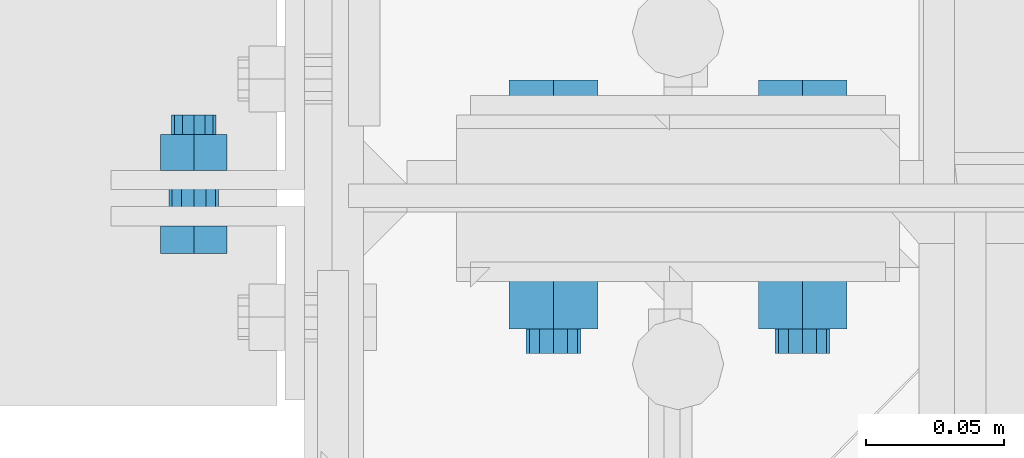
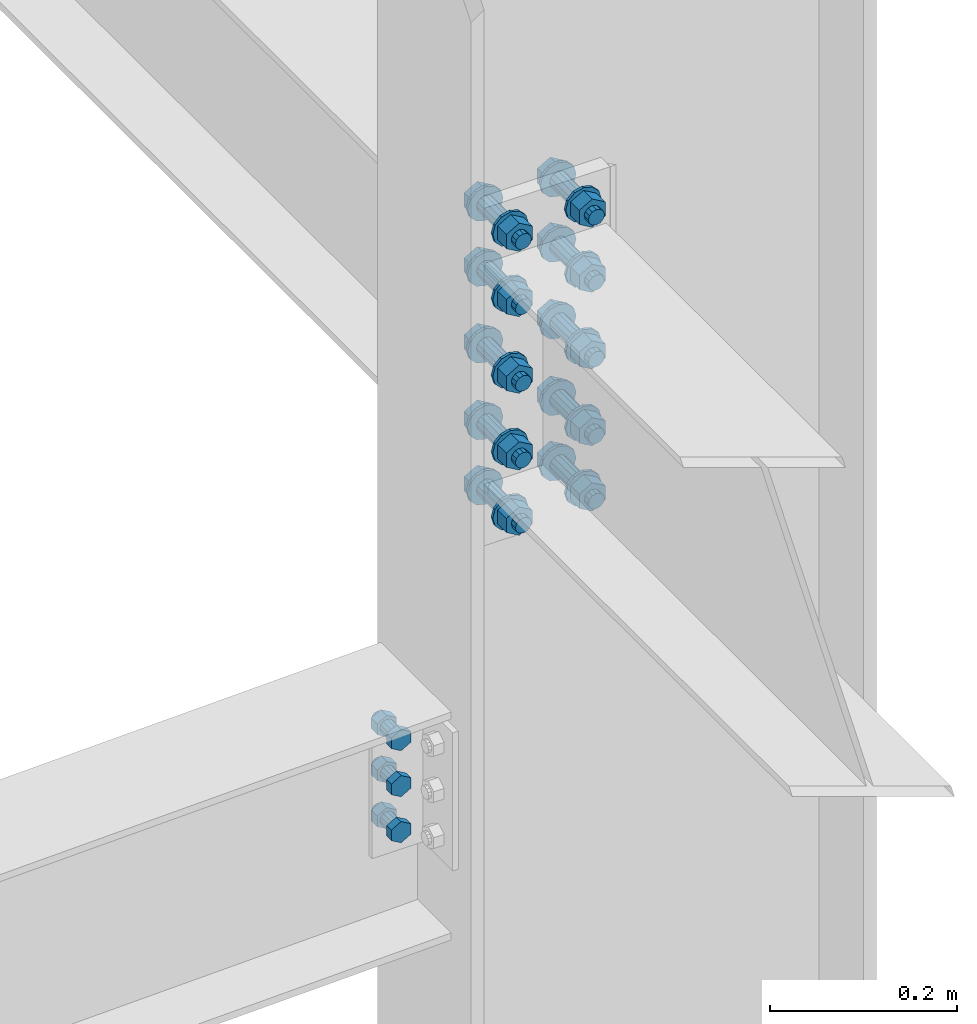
# One storey, part 202 of 3134: 2 mechanical fasteners, 2 elements without a shape of their own.
"""IFC2X3 building model written with IfcOpenShell, lengths in millimetres."""

from ifc_helpers import new_model, si_unit, frame, origin_with_axes, place, context, subcontext, project, spatial, faceted_brep, source, transform, mapped, material, type_object, element, aggregate, save


model = new_model("IFC2X3")

# Units and contexts
model_context = context("Model", 3, precision=1e-05, world=origin_with_axes())
body_context = subcontext(model_context, "Body", "Model", "MODEL_VIEW")
ifc_project = project(units=[si_unit("LENGTHUNIT", "METRE", prefix="MILLI"), si_unit("AREAUNIT", "SQUARE_METRE"), si_unit("VOLUMEUNIT", "CUBIC_METRE"), si_unit("MASSUNIT", "GRAM", prefix="KILO"), si_unit("TIMEUNIT", "SECOND"), si_unit("PLANEANGLEUNIT", "RADIAN"), si_unit("SOLIDANGLEUNIT", "STERADIAN"), si_unit("THERMODYNAMICTEMPERATUREUNIT", "DEGREE_CELSIUS"), si_unit("LUMINOUSINTENSITYUNIT", "LUMEN")], contexts=[model_context])

# Site, building, storey
site_placement = place(None, origin_with_axes())
site = spatial("IfcSite", under=ifc_project, at=site_placement, CompositionType="ELEMENT")
building_placement = place(site_placement, origin_with_axes())
building = spatial("IfcBuilding", under=site, at=building_placement, Name="Undefined", CompositionType="ELEMENT")
storey_placement = place(building_placement, origin_with_axes())
storey = spatial("IfcBuildingStorey", under=building, at=storey_placement, Name="Undefined", CompositionType="ELEMENT", Elevation=0.0)

# Assembly, mechanical fastener
assembly_1_placement = place(storey_placement, origin_with_axes())
assembly_1 = element("IfcElementAssembly", 1, at=assembly_1_placement, inside=storey, Name="300", AssemblyPlace="NOTDEFINED", PredefinedType="RIGID_FRAME")
ifc_material_1 = material(Name="HR10.9")
mechanical_fastener_type = type_object("IfcMechanicalFastenerType", Name="Bolt assembly")
shared_shape_1 = source(origin_with_axes(), body_context, "Body", "Brep", [
    faceted_brep([(18.475208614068, -18.3999996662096, 0.0), (9.23760430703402, -18.3999996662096, 16.0), (-9.23760430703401, -18.3999996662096, 16.0), (-18.475208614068, -18.3999996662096, 2.2625605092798e-15), (-9.23760430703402, -18.3999996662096, -16.0), (9.237604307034, -18.3999996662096, -16.0), (9.237604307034, -4.50000004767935, -16.0), (-9.23760430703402, -4.50000004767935, -16.0), (-18.475208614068, -4.50000004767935, 2.2625605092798e-15), (-9.23760430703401, -4.50000004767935, 16.0), (9.23760430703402, -4.50000004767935, 16.0), (18.475208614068, -4.50000004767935, 0.0), (10.0, -4.50000004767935, 0.0), (8.66025403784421, -4.50000004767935, 5.0000000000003), (4.9999999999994, -4.50000004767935, 8.66025403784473), (-1.03633598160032e-12, -4.50000004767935, 10.0), (-5.00000000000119, -4.50000004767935, 8.6602540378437), (-8.66025403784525, -4.50000004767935, 4.99999999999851), (-10.0, -4.50000004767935, -2.07267196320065e-12), (-8.66025403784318, -4.50000004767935, -5.00000000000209), (-4.99999999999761, -4.50000004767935, -8.66025403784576), (3.09790571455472e-12, -4.50000004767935, -10.0), (5.00000000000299, -4.50000004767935, -8.66025403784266), (8.66025403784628, -4.50000004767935, -4.99999999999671), (8.66025403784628, 80.4999999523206, -4.99999999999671), (5.00000000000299, 80.4999999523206, -8.66025403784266), (3.09790571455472e-12, 80.4999999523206, -10.0), (-4.99999999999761, 80.4999999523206, -8.66025403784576), (-8.66025403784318, 80.4999999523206, -5.00000000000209), (-10.0, 80.4999999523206, -2.07267196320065e-12), (-8.66025403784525, 80.4999999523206, 4.99999999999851), (-5.00000000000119, 80.4999999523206, 8.6602540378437), (-1.03633598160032e-12, 80.4999999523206, 10.0), (4.9999999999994, 80.4999999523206, 8.66025403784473), (8.66025403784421, 80.4999999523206, 5.0000000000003), (10.0, 80.4999999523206, 0.0), (22.0, -4.50000004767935, 0.0), (19.0525588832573, -4.50000004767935, 11.0000000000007), (10.9999999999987, -4.50000004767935, 19.0525588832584), (-2.27993915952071e-12, -4.50000004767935, 22.0), (-11.0000000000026, -4.50000004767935, 19.0525588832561), (-19.0525588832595, -4.50000004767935, 10.9999999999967), (-22.0, -4.50000004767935, -4.55987831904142e-12), (-19.052558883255, -4.50000004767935, -11.0000000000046), (-10.9999999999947, -4.50000004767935, -19.0525588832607), (6.81539257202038e-12, -4.50000004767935, -22.0), (11.0000000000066, -4.50000004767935, -19.0525588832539), (19.0525588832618, -4.50000004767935, -10.9999999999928), (19.0525588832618, -0.799999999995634, -10.9999999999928), (11.0000000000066, -0.799999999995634, -19.0525588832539), (6.81539257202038e-12, -0.799999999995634, -22.0), (-10.9999999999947, -0.799999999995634, -19.0525588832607), (-19.052558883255, -0.799999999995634, -11.0000000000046), (-22.0, -0.799999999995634, -4.55987831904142e-12), (-19.0525588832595, -0.799999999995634, 10.9999999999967), (-11.0000000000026, -0.799999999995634, 19.0525588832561), (-2.27993915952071e-12, -0.799999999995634, 22.0), (10.9999999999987, -0.799999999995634, 19.0525588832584), (19.0525588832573, -0.799999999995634, 11.0000000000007), (22.0, -0.799999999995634, 0.0), (22.0, 49.4000000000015, 0.0), (19.0525588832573, 49.4000000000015, 11.0000000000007), (10.9999999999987, 49.4000000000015, 19.0525588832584), (-2.27993915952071e-12, 49.4000000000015, 22.0), (-11.0000000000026, 49.4000000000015, 19.0525588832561), (-19.0525588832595, 49.4000000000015, 10.9999999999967), (-22.0, 49.4000000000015, -4.55987831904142e-12), (-19.052558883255, 49.4000000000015, -11.0000000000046), (-10.9999999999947, 49.4000000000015, -19.0525588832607), (6.81539257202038e-12, 49.4000000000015, -22.0), (11.0000000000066, 49.4000000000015, -19.0525588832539), (19.0525588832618, 49.4000000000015, -10.9999999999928), (19.0525588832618, 53.1000000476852, -10.9999999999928), (11.0000000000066, 53.1000000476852, -19.0525588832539), (6.81539257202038e-12, 53.1000000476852, -22.0), (-10.9999999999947, 53.1000000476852, -19.0525588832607), (-19.052558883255, 53.1000000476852, -11.0000000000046), (-22.0, 53.1000000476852, -4.55987831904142e-12), (-19.0525588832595, 53.1000000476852, 10.9999999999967), (-11.0000000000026, 53.1000000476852, 19.0525588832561), (-2.27993915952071e-12, 53.1000000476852, 22.0), (10.9999999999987, 53.1000000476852, 19.0525588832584), (19.0525588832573, 53.1000000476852, 11.0000000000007), (22.0, 53.1000000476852, 0.0), (18.475208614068, 53.1000000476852, 0.0), (9.23760430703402, 53.1000000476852, 16.0), (-9.23760430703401, 53.1000000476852, 16.0), (-18.475208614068, 53.1000000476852, 2.2625605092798e-15), (-9.23760430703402, 53.1000000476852, -16.0), (9.237604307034, 53.1000000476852, -16.0), (9.237604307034, 71.6499992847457, -16.0), (-9.23760430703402, 71.6499992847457, -16.0), (-18.475208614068, 71.6499992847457, 2.2625605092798e-15), (-9.23760430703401, 71.6499992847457, 16.0), (9.23760430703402, 71.6499992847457, 16.0), (18.475208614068, 71.6499992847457, 0.0)], [[[0, 1, 2, 3, 4, 5]], [[6, 7, 8, 9, 10, 11]], [[0, 11, 10, 1]], [[1, 10, 9, 2]], [[2, 9, 8, 3]], [[3, 8, 7, 4]], [[4, 7, 6, 5]], [[5, 6, 11, 0]], [[12, 13, 14, 15, 16, 17, 18, 19, 20, 21, 22, 23]], [[24, 25, 26, 27, 28, 29, 30, 31, 32, 33, 34, 35]], [[12, 35, 34, 13]], [[13, 34, 33, 14]], [[14, 33, 32, 15]], [[15, 32, 31, 16]], [[16, 31, 30, 17]], [[17, 30, 29, 18]], [[18, 29, 28, 19]], [[19, 28, 27, 20]], [[20, 27, 26, 21]], [[21, 26, 25, 22]], [[22, 25, 24, 23]], [[23, 24, 35, 12]], [[36, 37, 38, 39, 40, 41, 42, 43, 44, 45, 46, 47]], [[48, 49, 50, 51, 52, 53, 54, 55, 56, 57, 58, 59]], [[36, 59, 58, 37]], [[37, 58, 57, 38]], [[38, 57, 56, 39]], [[39, 56, 55, 40]], [[40, 55, 54, 41]], [[41, 54, 53, 42]], [[42, 53, 52, 43]], [[43, 52, 51, 44]], [[44, 51, 50, 45]], [[45, 50, 49, 46]], [[46, 49, 48, 47]], [[47, 48, 59, 36]], [[60, 61, 62, 63, 64, 65, 66, 67, 68, 69, 70, 71]], [[72, 73, 74, 75, 76, 77, 78, 79, 80, 81, 82, 83]], [[60, 83, 82, 61]], [[61, 82, 81, 62]], [[62, 81, 80, 63]], [[63, 80, 79, 64]], [[64, 79, 78, 65]], [[65, 78, 77, 66]], [[66, 77, 76, 67]], [[67, 76, 75, 68]], [[68, 75, 74, 69]], [[69, 74, 73, 70]], [[70, 73, 72, 71]], [[71, 72, 83, 60]], [[84, 85, 86, 87, 88, 89]], [[90, 91, 92, 93, 94, 95]], [[84, 95, 94, 85]], [[85, 94, 93, 86]], [[86, 93, 92, 87]], [[87, 92, 91, 88]], [[88, 91, 90, 89]], [[89, 90, 95, 84]]]),
    faceted_brep([(11.0, 19.2000000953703, 0.0), (9.52627944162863, 19.2000000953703, 5.50000000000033), (5.49999999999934, 19.2000000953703, 9.5262794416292), (-1.13996957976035e-12, 19.2000000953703, 11.0), (-5.50000000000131, 19.2000000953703, 9.52627944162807), (-9.52627944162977, 19.2000000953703, 5.49999999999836), (-11.0, 19.2000000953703, -2.27993915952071e-12), (-9.5262794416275, 19.2000000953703, -5.5000000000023), (-5.49999999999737, 19.2000000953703, -9.52627944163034), (3.40769628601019e-12, 19.2000000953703, -11.0), (5.50000000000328, 19.2000000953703, -9.52627944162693), (9.52627944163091, 19.2000000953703, -5.49999999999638), (9.52627944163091, 29.3999999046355, -5.49999999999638), (5.50000000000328, 29.3999999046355, -9.52627944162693), (3.40769628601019e-12, 29.3999999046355, -11.0), (-5.49999999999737, 29.3999999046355, -9.52627944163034), (-9.5262794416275, 29.3999999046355, -5.5000000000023), (-11.0, 29.3999999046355, -2.27993915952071e-12), (-9.52627944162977, 29.3999999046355, 5.49999999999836), (-5.50000000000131, 29.3999999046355, 9.52627944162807), (-1.13996957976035e-12, 29.3999999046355, 11.0), (5.49999999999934, 29.3999999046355, 9.5262794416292), (9.52627944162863, 29.3999999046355, 5.50000000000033), (11.0, 29.3999999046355, 0.0), (11.0, -0.699999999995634, 0.0), (9.52627944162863, -0.699999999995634, 5.50000000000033), (5.49999999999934, -0.699999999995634, 9.5262794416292), (-1.13996957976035e-12, -0.699999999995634, 11.0), (-5.50000000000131, -0.699999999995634, 9.52627944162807), (-9.52627944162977, -0.699999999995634, 5.49999999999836), (-11.0, -0.699999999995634, -2.27993915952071e-12), (-9.5262794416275, -0.699999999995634, -5.5000000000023), (-5.49999999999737, -0.699999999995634, -9.52627944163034), (3.40769628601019e-12, -0.699999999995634, -11.0), (5.50000000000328, -0.699999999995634, -9.52627944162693), (9.52627944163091, -0.699999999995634, -5.49999999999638), (9.52627944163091, 19.3000000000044, -5.49999999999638), (5.50000000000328, 19.3000000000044, -9.52627944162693), (3.40769628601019e-12, 19.3000000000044, -11.0), (-5.49999999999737, 19.3000000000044, -9.52627944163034), (-9.5262794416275, 19.3000000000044, -5.5000000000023), (-11.0, 19.3000000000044, -2.27993915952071e-12), (-9.52627944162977, 19.3000000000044, 5.49999999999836), (-5.50000000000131, 19.3000000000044, 9.52627944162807), (-1.13996957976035e-12, 19.3000000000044, 11.0), (5.49999999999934, 19.3000000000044, 9.5262794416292), (9.52627944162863, 19.3000000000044, 5.50000000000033), (11.0, 19.3000000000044, 0.0), (11.0, 29.3000000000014, 0.0), (9.52627944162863, 29.3000000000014, 5.50000000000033), (5.49999999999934, 29.3000000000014, 9.5262794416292), (-1.13996957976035e-12, 29.3000000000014, 11.0), (-5.50000000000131, 29.3000000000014, 9.52627944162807), (-9.52627944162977, 29.3000000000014, 5.49999999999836), (-11.0, 29.3000000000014, -2.27993915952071e-12), (-9.5262794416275, 29.3000000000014, -5.5000000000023), (-5.49999999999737, 29.3000000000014, -9.52627944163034), (3.40769628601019e-12, 29.3000000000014, -11.0), (5.50000000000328, 29.3000000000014, -9.52627944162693), (9.52627944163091, 29.3000000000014, -5.49999999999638), (9.52627944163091, 49.4000000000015, -5.49999999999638), (5.50000000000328, 49.4000000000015, -9.52627944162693), (3.40769628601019e-12, 49.4000000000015, -11.0), (-5.49999999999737, 49.4000000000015, -9.52627944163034), (-9.5262794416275, 49.4000000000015, -5.5000000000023), (-11.0, 49.4000000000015, -2.27993915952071e-12), (-9.52627944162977, 49.4000000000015, 5.49999999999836), (-5.50000000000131, 49.4000000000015, 9.52627944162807), (-1.13996957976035e-12, 49.4000000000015, 11.0), (5.49999999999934, 49.4000000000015, 9.5262794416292), (9.52627944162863, 49.4000000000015, 5.50000000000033), (11.0, 49.4000000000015, 0.0)], [[[0, 1, 2, 3, 4, 5, 6, 7, 8, 9, 10, 11]], [[12, 13, 14, 15, 16, 17, 18, 19, 20, 21, 22, 23]], [[0, 23, 22, 1]], [[1, 22, 21, 2]], [[2, 21, 20, 3]], [[3, 20, 19, 4]], [[4, 19, 18, 5]], [[5, 18, 17, 6]], [[6, 17, 16, 7]], [[7, 16, 15, 8]], [[8, 15, 14, 9]], [[9, 14, 13, 10]], [[10, 13, 12, 11]], [[11, 12, 23, 0]], [[24, 25, 26, 27, 28, 29, 30, 31, 32, 33, 34, 35]], [[36, 37, 38, 39, 40, 41, 42, 43, 44, 45, 46, 47]], [[24, 47, 46, 25]], [[25, 46, 45, 26]], [[26, 45, 44, 27]], [[27, 44, 43, 28]], [[28, 43, 42, 29]], [[29, 42, 41, 30]], [[30, 41, 40, 31]], [[31, 40, 39, 32]], [[32, 39, 38, 33]], [[33, 38, 37, 34]], [[34, 37, 36, 35]], [[35, 36, 47, 24]], [[48, 49, 50, 51, 52, 53, 54, 55, 56, 57, 58, 59]], [[60, 61, 62, 63, 64, 65, 66, 67, 68, 69, 70, 71]], [[48, 71, 70, 49]], [[49, 70, 69, 50]], [[50, 69, 68, 51]], [[51, 68, 67, 52]], [[52, 67, 66, 53]], [[53, 66, 65, 54]], [[54, 65, 64, 55]], [[55, 64, 63, 56]], [[56, 63, 62, 57]], [[57, 62, 61, 58]], [[58, 61, 60, 59]], [[59, 60, 71, 48]]]),
])
mechanical_fastener_1_placement = place(assembly_1_placement, frame((20850.0, 40274.3, 4273.5), z_axis=(-1.0, 0.0, 0.0), x_axis=(0.0, 0.0, -1.0)))
mechanical_fastener_1 = element("IfcMechanicalFastener", 2, at=mechanical_fastener_1_placement, type_object=mechanical_fastener_type, material=ifc_material_1, Name="Bolt assembly", NominalDiameter=20.0, NominalLength=85.0, context=body_context, shape_type="MappedRepresentation", body=[
    mapped(shared_shape_1, transform((0.0, 0.0, -45.0))),
    mapped(shared_shape_1, transform((85.0, 0.0, -45.0))),
    mapped(shared_shape_1, transform((185.0, 0.0, -45.0))),
    mapped(shared_shape_1, transform((285.0, 0.0, -45.0))),
    mapped(shared_shape_1, transform((370.0, 0.0, -45.0))),
    mapped(shared_shape_1, transform((0.0, 0.0, 45.0))),
    mapped(shared_shape_1, transform((85.0, 0.0, 45.0))),
    mapped(shared_shape_1, transform((185.0, 0.0, 45.0))),
    mapped(shared_shape_1, transform((285.0, 0.0, 45.0))),
    mapped(shared_shape_1, transform((370.0, 0.0, 45.0))),
])
aggregate(assembly_1, [mechanical_fastener_1])

assembly_2_placement = place(storey_placement, origin_with_axes())
assembly_2 = element("IfcElementAssembly", 3, at=assembly_2_placement, inside=storey, AssemblyPlace="NOTDEFINED", PredefinedType="RIGID_FRAME")
ifc_material_2 = material(Name="8.8")
shared_shape_2 = source(origin_with_axes(), body_context, "Body", "Brep", [
    faceted_brep([(13.856406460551, -20.0400000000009, 0.0), (6.92820323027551, -20.0400000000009, 12.0), (-6.92820323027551, -20.0400000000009, 12.0), (-13.856406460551, -20.0400000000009, 1.69692038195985e-15), (-6.92820323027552, -20.0400000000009, -12.0), (6.9282032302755, -20.0400000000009, -12.0), (6.9282032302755, -10.0400000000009, -12.0), (-6.92820323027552, -10.0400000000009, -12.0), (-13.856406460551, -10.0400000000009, 1.69692038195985e-15), (-6.92820323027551, -10.0400000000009, 12.0), (6.92820323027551, -10.0400000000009, 12.0), (13.856406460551, -10.0400000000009, 0.0), (8.0, -10.0400000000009, 0.0), (6.92820323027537, -10.0400000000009, 4.00000000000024), (3.99999999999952, -10.0400000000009, 6.92820323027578), (-8.29068785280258e-13, -10.0400000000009, 8.0), (-4.00000000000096, -10.0400000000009, 6.92820323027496), (-6.9282032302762, -10.0400000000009, 3.99999999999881), (-8.0, -10.0400000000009, -1.65813757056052e-12), (-6.92820323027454, -10.0400000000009, -4.00000000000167), (-3.99999999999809, -10.0400000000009, -6.92820323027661), (2.47832457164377e-12, -10.0400000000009, -8.0), (4.00000000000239, -10.0400000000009, -6.92820323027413), (6.92820323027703, -10.0400000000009, -3.99999999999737), (6.92820323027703, 29.9599999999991, -3.99999999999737), (4.00000000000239, 29.9599999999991, -6.92820323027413), (2.47832457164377e-12, 29.9599999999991, -8.0), (-3.99999999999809, 29.9599999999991, -6.92820323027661), (-6.92820323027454, 29.9599999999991, -4.00000000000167), (-8.0, 29.9599999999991, -1.65813757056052e-12), (-6.9282032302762, 29.9599999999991, 3.99999999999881), (-4.00000000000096, 29.9599999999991, 6.92820323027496), (-8.29068785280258e-13, 29.9599999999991, 8.0), (3.99999999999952, 29.9599999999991, 6.92820323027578), (6.92820323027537, 29.9599999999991, 4.00000000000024), (8.0, 29.9599999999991, 0.0), (13.856406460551, 10.0400000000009, 0.0), (6.92820323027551, 10.0400000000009, 12.0), (-6.92820323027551, 10.0400000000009, 12.0), (-13.856406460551, 10.0400000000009, 1.69692038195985e-15), (-6.92820323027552, 10.0400000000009, -12.0), (6.9282032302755, 10.0400000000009, -12.0), (6.9282032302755, 23.0400000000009, -12.0), (-6.92820323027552, 23.0400000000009, -12.0), (-13.856406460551, 23.0400000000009, 1.69692038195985e-15), (-6.92820323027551, 23.0400000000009, 12.0), (6.92820323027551, 23.0400000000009, 12.0), (13.856406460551, 23.0400000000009, 0.0)], [[[0, 1, 2, 3, 4, 5]], [[6, 7, 8, 9, 10, 11]], [[0, 11, 10, 1]], [[1, 10, 9, 2]], [[2, 9, 8, 3]], [[3, 8, 7, 4]], [[4, 7, 6, 5]], [[5, 6, 11, 0]], [[12, 13, 14, 15, 16, 17, 18, 19, 20, 21, 22, 23]], [[24, 25, 26, 27, 28, 29, 30, 31, 32, 33, 34, 35]], [[12, 35, 34, 13]], [[13, 34, 33, 14]], [[14, 33, 32, 15]], [[15, 32, 31, 16]], [[16, 31, 30, 17]], [[17, 30, 29, 18]], [[18, 29, 28, 19]], [[19, 28, 27, 20]], [[20, 27, 26, 21]], [[21, 26, 25, 22]], [[22, 25, 24, 23]], [[23, 24, 35, 12]], [[36, 37, 38, 39, 40, 41]], [[42, 43, 44, 45, 46, 47]], [[36, 47, 46, 37]], [[37, 46, 45, 38]], [[38, 45, 44, 39]], [[39, 44, 43, 40]], [[40, 43, 42, 41]], [[41, 42, 47, 36]]]),
    faceted_brep([(9.0, -3.04999995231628, 0.0), (7.79422863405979, -3.04999995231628, 4.50000000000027), (4.49999999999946, -3.04999995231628, 7.79422863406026), (-9.3270238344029e-13, -3.04999995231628, 9.0), (-4.50000000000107, -3.04999995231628, 7.79422863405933), (-7.79422863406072, -3.04999995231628, 4.49999999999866), (-9.0, -3.04999995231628, -1.86540476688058e-12), (-7.79422863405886, -3.04999995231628, -4.50000000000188), (-4.49999999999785, -3.04999995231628, -7.79422863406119), (2.78811514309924e-12, -3.04999995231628, -9.0), (4.50000000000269, -3.04999995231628, -7.7942286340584), (7.79422863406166, -3.04999995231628, -4.49999999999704), (7.79422863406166, 3.04999995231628, -4.49999999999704), (4.50000000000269, 3.04999995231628, -7.7942286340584), (2.78811514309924e-12, 3.04999995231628, -9.0), (-4.49999999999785, 3.04999995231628, -7.79422863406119), (-7.79422863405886, 3.04999995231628, -4.50000000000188), (-9.0, 3.04999995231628, -1.86540476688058e-12), (-7.79422863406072, 3.04999995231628, 4.49999999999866), (-4.50000000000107, 3.04999995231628, 7.79422863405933), (-9.3270238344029e-13, 3.04999995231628, 9.0), (4.49999999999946, 3.04999995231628, 7.79422863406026), (7.79422863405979, 3.04999995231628, 4.50000000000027), (9.0, 3.04999995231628, 0.0), (9.0, -9.94000000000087, 0.0), (7.79422863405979, -9.94000000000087, 4.50000000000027), (4.49999999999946, -9.94000000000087, 7.79422863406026), (-9.3270238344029e-13, -9.94000000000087, 9.0), (-4.50000000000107, -9.94000000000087, 7.79422863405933), (-7.79422863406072, -9.94000000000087, 4.49999999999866), (-9.0, -9.94000000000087, -1.86540476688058e-12), (-7.79422863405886, -9.94000000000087, -4.50000000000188), (-4.49999999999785, -9.94000000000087, -7.79422863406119), (2.78811514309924e-12, -9.94000000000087, -9.0), (4.50000000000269, -9.94000000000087, -7.7942286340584), (7.79422863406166, -9.94000000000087, -4.49999999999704), (7.79422863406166, -2.94000000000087, -4.49999999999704), (4.50000000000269, -2.94000000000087, -7.7942286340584), (2.78811514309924e-12, -2.94000000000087, -9.0), (-4.49999999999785, -2.94000000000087, -7.79422863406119), (-7.79422863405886, -2.94000000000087, -4.50000000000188), (-9.0, -2.94000000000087, -1.86540476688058e-12), (-7.79422863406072, -2.94000000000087, 4.49999999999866), (-4.50000000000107, -2.94000000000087, 7.79422863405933), (-9.3270238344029e-13, -2.94000000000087, 9.0), (4.49999999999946, -2.94000000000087, 7.79422863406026), (7.79422863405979, -2.94000000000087, 4.50000000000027), (9.0, -2.94000000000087, 0.0), (9.0, 2.94000000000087, 0.0), (7.79422863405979, 2.94000000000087, 4.50000000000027), (4.49999999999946, 2.94000000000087, 7.79422863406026), (-9.3270238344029e-13, 2.94000000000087, 9.0), (-4.50000000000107, 2.94000000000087, 7.79422863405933), (-7.79422863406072, 2.94000000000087, 4.49999999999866), (-9.0, 2.94000000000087, -1.86540476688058e-12), (-7.79422863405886, 2.94000000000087, -4.50000000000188), (-4.49999999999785, 2.94000000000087, -7.79422863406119), (2.78811514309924e-12, 2.94000000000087, -9.0), (4.50000000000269, 2.94000000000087, -7.7942286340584), (7.79422863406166, 2.94000000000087, -4.49999999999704), (7.79422863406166, 10.0400000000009, -4.49999999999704), (4.50000000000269, 10.0400000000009, -7.7942286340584), (2.78811514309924e-12, 10.0400000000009, -9.0), (-4.49999999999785, 10.0400000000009, -7.79422863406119), (-7.79422863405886, 10.0400000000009, -4.50000000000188), (-9.0, 10.0400000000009, -1.86540476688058e-12), (-7.79422863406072, 10.0400000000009, 4.49999999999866), (-4.50000000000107, 10.0400000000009, 7.79422863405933), (-9.3270238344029e-13, 10.0400000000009, 9.0), (4.49999999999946, 10.0400000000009, 7.79422863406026), (7.79422863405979, 10.0400000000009, 4.50000000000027), (9.0, 10.0400000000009, 0.0)], [[[0, 1, 2, 3, 4, 5, 6, 7, 8, 9, 10, 11]], [[12, 13, 14, 15, 16, 17, 18, 19, 20, 21, 22, 23]], [[0, 23, 22, 1]], [[1, 22, 21, 2]], [[2, 21, 20, 3]], [[3, 20, 19, 4]], [[4, 19, 18, 5]], [[5, 18, 17, 6]], [[6, 17, 16, 7]], [[7, 16, 15, 8]], [[8, 15, 14, 9]], [[9, 14, 13, 10]], [[10, 13, 12, 11]], [[11, 12, 23, 0]], [[24, 25, 26, 27, 28, 29, 30, 31, 32, 33, 34, 35]], [[36, 37, 38, 39, 40, 41, 42, 43, 44, 45, 46, 47]], [[24, 47, 46, 25]], [[25, 46, 45, 26]], [[26, 45, 44, 27]], [[27, 44, 43, 28]], [[28, 43, 42, 29]], [[29, 42, 41, 30]], [[30, 41, 40, 31]], [[31, 40, 39, 32]], [[32, 39, 38, 33]], [[33, 38, 37, 34]], [[34, 37, 36, 35]], [[35, 36, 47, 24]], [[48, 49, 50, 51, 52, 53, 54, 55, 56, 57, 58, 59]], [[60, 61, 62, 63, 64, 65, 66, 67, 68, 69, 70, 71]], [[48, 71, 70, 49]], [[49, 70, 69, 50]], [[50, 69, 68, 51]], [[51, 68, 67, 52]], [[52, 67, 66, 53]], [[53, 66, 65, 54]], [[54, 65, 64, 55]], [[55, 64, 63, 56]], [[56, 63, 62, 57]], [[57, 62, 61, 58]], [[58, 61, 60, 59]], [[59, 60, 71, 48]]]),
])
mechanical_fastener_2_placement = place(assembly_2_placement, frame((20674.9983435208, 40250.0, 3647.00367353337), z_axis=(1.0, 0.0, 0.0), x_axis=(0.0, 0.0, -1.0)))
mechanical_fastener_2 = element("IfcMechanicalFastener", 4, at=mechanical_fastener_2_placement, type_object=mechanical_fastener_type, material=ifc_material_2, Name="Bolt assembly", NominalDiameter=16.0, NominalLength=40.0, context=body_context, shape_type="MappedRepresentation", body=[
    mapped(shared_shape_2, transform((0.0, 0.0, 0.0))),
    mapped(shared_shape_2, transform((59.9999999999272, 0.0, 5.40239852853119e-10))),
    mapped(shared_shape_2, transform((120.0, 0.0, 0.0))),
])
aggregate(assembly_2, [mechanical_fastener_2])

save(model, "model.ifc")
